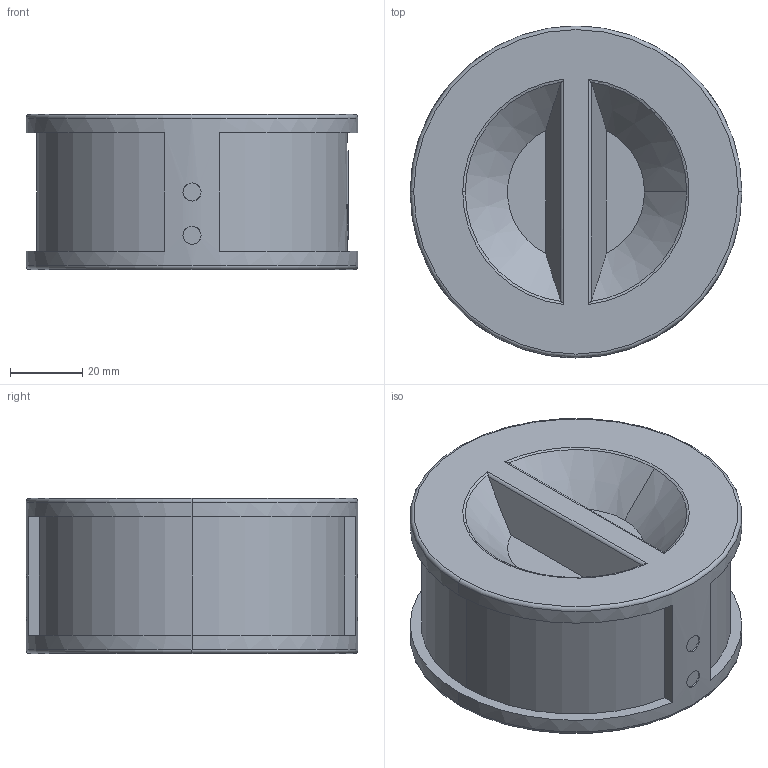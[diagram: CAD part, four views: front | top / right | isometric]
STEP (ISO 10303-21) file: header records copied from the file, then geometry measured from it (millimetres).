
FILE_DESCRIPTION (( 'STEP AP203' ), '1' );
FILE_NAME ('润泽DN40对夹双板止回阀PN16.STEP', '2026-08-19T02:43:00', ( 'Windows 用户' ), ( 'Microsoft' ), 'SwSTEP 2.0', 'SolidWorks 2022', '' );
FILE_SCHEMA (( 'CONFIG_CONTROL_DESIGN' ));
Length unit declared in the file: millimetre
Products named in the file (1): 润泽DN40对夹双板止回阀PN16
Bounding box: 92 x 92 x 43 mm (x, y, z)
Volume: 179422.4 mm3; surface area: 36191.8 mm2
Topology: 1 solids, 1 shells, 145 faces, 345 edges, 215 vertices
Faces by surface type: cylinder 62, plane 43, torus 29, bspline 8, cone 3
Entity records: 4920 total; most frequent: CARTESIAN_POINT 1502, DIRECTION 706, ORIENTED_EDGE 690, EDGE_CURVE 345, AXIS2_PLACEMENT_3D 288, VERTEX_POINT 215, EDGE_LOOP 170, CIRCLE 150
